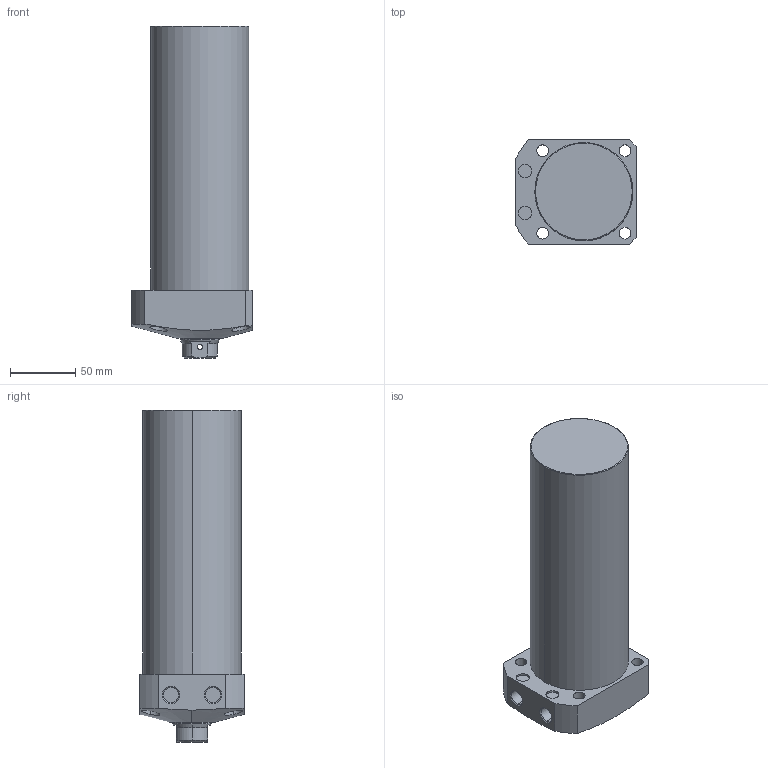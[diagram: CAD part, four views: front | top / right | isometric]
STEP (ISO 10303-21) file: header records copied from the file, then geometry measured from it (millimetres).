
FILE_DESCRIPTION (( 'STEP AP203' ), '1' );
FILE_NAME ('CLL-075CB-165.STEP', '2019-12-24T00:27:59', ( '' ), ( '' ), 'SwSTEP 2.0', 'SolidWorks 2015', '' );
FILE_SCHEMA (( 'CONFIG_CONTROL_DESIGN' ));
Length unit declared in the file: millimetre
Products named in the file (1): CLL-075CB-165
Bounding box: 92 x 80 x 254 mm (x, y, z)
Volume: 1111339.2 mm3; surface area: 80008.3 mm2
Topology: 1 solids, 1 shells, 78 faces, 183 edges, 116 vertices
Faces by surface type: cylinder 39, plane 22, cone 15, torus 2
Entity records: 2862 total; most frequent: CARTESIAN_POINT 955, DIRECTION 396, ORIENTED_EDGE 362, EDGE_CURVE 181, AXIS2_PLACEMENT_3D 164, VERTEX_POINT 116, EDGE_LOOP 101, CIRCLE 85
